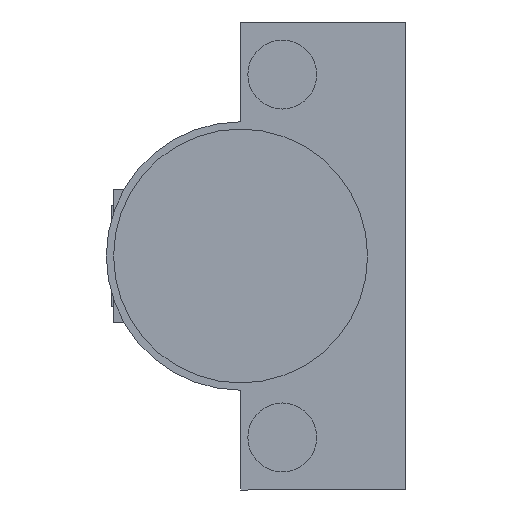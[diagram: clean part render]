
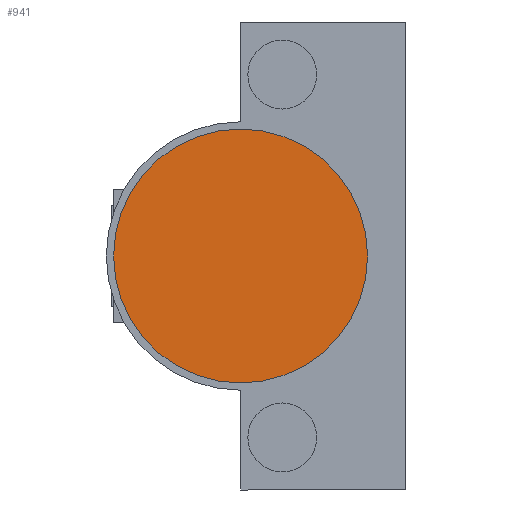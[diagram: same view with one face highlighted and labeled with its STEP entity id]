
A CAD part, front view. The second image highlights one B-rep face of the part: STEP entity #941.
In plain terms, the highlighted planar face has unit normal (0, -1, 0).
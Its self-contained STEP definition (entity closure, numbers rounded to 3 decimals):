
#285 = DIRECTION ( 'NONE',  ( 1., 0., 0. ) ) ;
#286 = DIRECTION ( 'NONE',  ( 0., -1., 0. ) ) ;
#287 = CARTESIAN_POINT ( 'NONE',  ( 21.5, -12.6, 0. ) ) ;
#293 = CARTESIAN_POINT ( 'NONE',  ( 21.5, -12.6, 0. ) ) ;
#295 = DIRECTION ( 'NONE',  ( 0., -1., 0. ) ) ;
#297 = DIRECTION ( 'NONE',  ( 1., 0., 0. ) ) ;
#385 = VERTEX_POINT ( 'NONE', #574 ) ;
#449 = PLANE ( 'NONE',  #1185 ) ;
#451 = DIRECTION ( 'NONE',  ( 0., -1., 0. ) ) ;
#452 = DIRECTION ( 'NONE',  ( 1., 0., 0. ) ) ;
#488 = CARTESIAN_POINT ( 'NONE',  ( 21.5, -12.6, 0. ) ) ;
#552 = VERTEX_POINT ( 'NONE', #642 ) ;
#574 = CARTESIAN_POINT ( 'NONE',  ( 4., -12.6, 0. ) ) ;
#642 = CARTESIAN_POINT ( 'NONE',  ( 39., -12.6, 0. ) ) ;
#941 = ADVANCED_FACE ( 'NONE', ( #1639 ), #449, .T. ) ;
#978 = AXIS2_PLACEMENT_3D ( 'NONE', #293, #295, #297 ) ;
#1036 = EDGE_CURVE ( 'NONE', #385, #552, #1773, .T. ) ;
#1041 = EDGE_CURVE ( 'NONE', #552, #385, #1781, .T. ) ;
#1185 = AXIS2_PLACEMENT_3D ( 'NONE', #488, #451, #452 ) ;
#1196 = AXIS2_PLACEMENT_3D ( 'NONE', #287, #286, #285 ) ;
#1235 = EDGE_LOOP ( 'NONE', ( #1461, #1462 ) ) ;
#1461 = ORIENTED_EDGE ( 'NONE', *, *, #1036, .T. ) ;
#1462 = ORIENTED_EDGE ( 'NONE', *, *, #1041, .T. ) ;
#1639 = FACE_OUTER_BOUND ( 'NONE', #1235, .T. ) ;
#1773 = CIRCLE ( 'NONE', #978, 17.5 ) ;
#1781 = CIRCLE ( 'NONE', #1196, 17.5 ) ;
